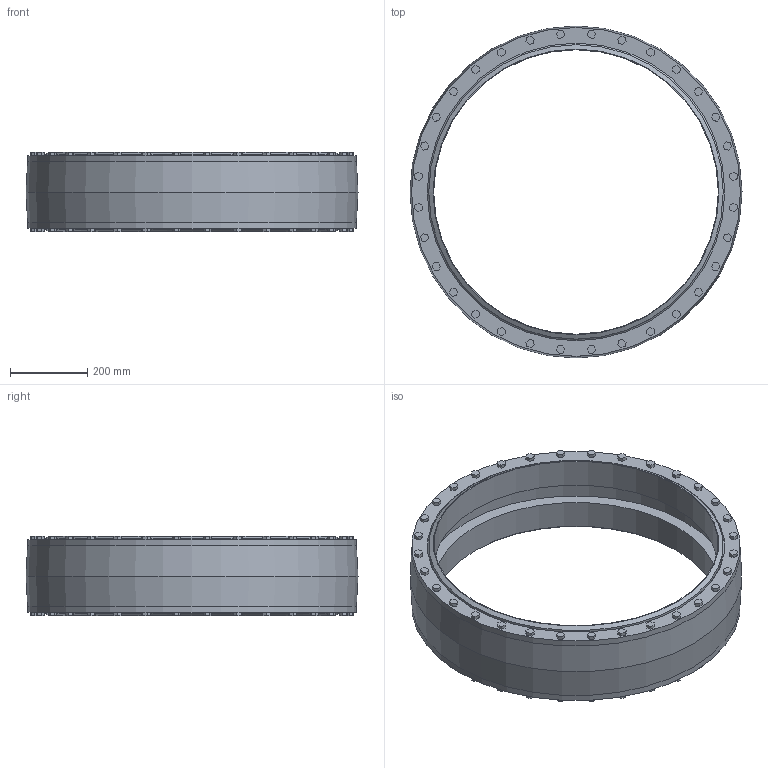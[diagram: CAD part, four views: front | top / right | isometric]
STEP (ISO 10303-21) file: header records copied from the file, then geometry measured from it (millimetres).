
FILE_DESCRIPTION(/* description */ ('VIC EXPANSION JOINT COUPLING 152-A','CAx-IF Rec.Pracs.---Representation and Presentation of Product Manufacturing Information (PMI)---4.0---2014-10-13'),/* implementation_level */ '2;1');
FILE_NAME(/* name */ 'C:\Users\kkamble\AppData\Roaming\Autodesk\ApplicationPlugins\Back Up\Victaulic_Vic-Ring_Coupling Expansion Joint_Style 152A (OGR)\Victaulic_Vic-Ring_Coupling Expansion Joint_Style 152A (OGR)_30 (750).stp',/* time_stamp */ '2020-09-10T11:34:38+05:00',/* author */ ('jheald'),/* organization */ ('Victaulic'),/* preprocessor_version */ 'ST-DEVELOPER v17.2',/* originating_system */ 'Autodesk Inventor 2019',/* authorisation */ '');
FILE_SCHEMA (('AP242_MANAGED_MODEL_BASED_3D_ENGINEERING_MIM_LF { 1 0 10303 442 1 1 4 }'));
Length unit declared in the file: inch
Products named in the file (1): 152A-30.0
Bounding box: 859.1 x 859.1 x 206.25 mm (x, y, z)
Volume: 22627665.2 mm3; surface area: 2267332.2 mm2
Topology: 1 solids, 1 shells, 485 faces, 1251 edges, 844 vertices
Faces by surface type: plane 462, cylinder 15, cone 6, torus 2
Full cylindrical faces by diameter (mm): 736.6 x2, 762 x2, 770.128 x2, 776.478 x2, 797.052 x4, 800.1 x1, 850.9 x2
Entity records: 15200 total; most frequent: CARTESIAN_POINT 2598, ORIENTED_EDGE 2502, DIRECTION 2327, EDGE_CURVE 1251, LINE 1173, VECTOR 1173, VERTEX_POINT 844, AXIS2_PLACEMENT_3D 577
